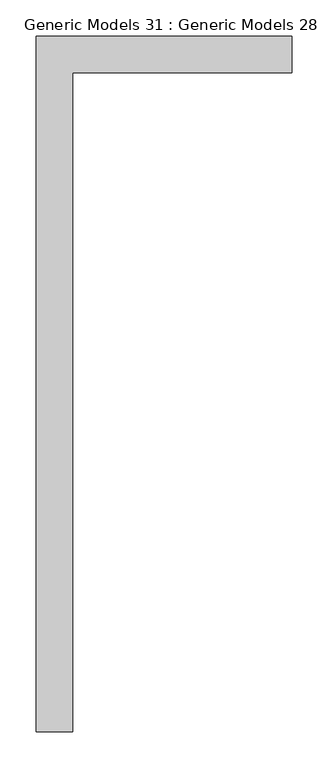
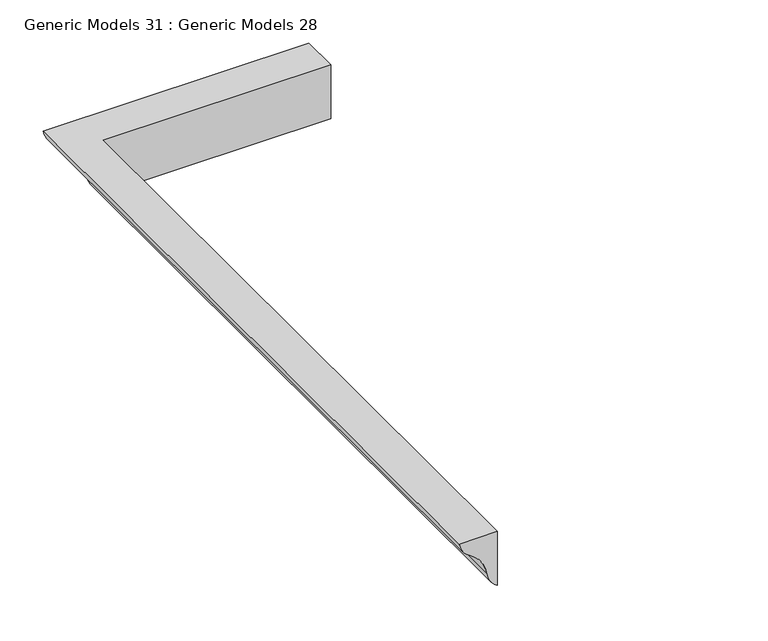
"""IFC4 building model written with IfcOpenShell, lengths in millimetres: proxy geometry, Generic Models 31 : Generic Models 28."""

from ifc_helpers import new_model, si_unit, frame, origin, place, context, project, spatial, polyline, circle_curve, ellipse_curve, source, transform, mapped, element, save
from ifc_brep_helpers import plane_surface, cylinder_surface, revolved_surface, advanced_brep


def generic_models_31_generic_models_28_6c951476(model_context):
    return source(origin(), model_context, "Body", "AdvancedBrep", [
        advanced_brep(
        [(3937.0, 8204.0947939, 5638.8), (3937.0, 8218.1841788, 5659.9340775), (3937.0, 8240.8054089, 5693.8659225), (3937.0, 8254.8947939, 5715.0), (3937.0, 8204.0947939, 5715.0), (3618.110615, 8218.1841788, 5659.9340775), (3632.2, 8204.0947939, 5638.8), (3632.2, 7289.6947939, 5638.8), (3618.110615, 7289.6947939, 5659.9340775), (3595.489385, 8240.8054089, 5693.8659225), (3595.489385, 7289.6947939, 5693.8659225), (3581.4, 8254.8947939, 5715.0), (3581.4, 7289.6947939, 5715.0), (3632.2, 8204.0947939, 5715.0), (3632.2, 7289.6947939, 5715.0)],
        [
            (0, 1, circle_curve(frame((3937.0, 8190.115854, 5663.3827937), z_axis=(1.0, 0.0, 0.0), x_axis=(0.0, -1.0, 0.0)), 28.2794007)),
            (1, 2, circle_curve(frame((3937.0, 8263.2493136, 5654.3969868), z_axis=(-1.0, 0.0, 0.0), x_axis=(0.0, -1.0, 0.0)), 45.4040279)),
            (2, 3, circle_curve(frame((3937.0, 8226.826469, 5718.4487162), z_axis=(1.0, 0.0, 0.0), x_axis=(0.0, -1.0, 0.0)), 28.2794007)),
            (3, 4),
            (4, 0),
            (5, 6, ellipse_curve(frame((3646.1789399, 8190.115854, 5663.3827937), z_axis=(-0.7071067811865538, -0.7071067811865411, 0.0), x_axis=(-0.707106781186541, 0.7071067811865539, 0.0)), 39.993112, 28.2794007)),
            (6, 7),
            (7, 8, circle_curve(frame((3646.1789399, 7289.6947939, 5663.3827937), z_axis=(0.0, 1.0, 0.0), x_axis=(1.0, 0.0, 0.0)), 28.2794007)),
            (8, 5),
            (9, 5, ellipse_curve(frame((3573.0454802, 8263.2493136, 5654.3969868), z_axis=(0.7071067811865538, 0.7071067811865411, 0.0), x_axis=(0.707106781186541, -0.7071067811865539, 0.0)), 64.210992, 45.4040279)),
            (8, 10, circle_curve(frame((3573.0454802, 7289.6947939, 5654.3969868), z_axis=(0.0, -1.0, 0.0), x_axis=(1.0, 0.0, 0.0)), 45.4040279)),
            (10, 9),
            (11, 9, ellipse_curve(frame((3609.4683249, 8226.826469, 5718.4487162), z_axis=(-0.7071067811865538, -0.7071067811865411, 0.0), x_axis=(-0.707106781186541, 0.7071067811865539, 0.0)), 39.993112, 28.2794007)),
            (10, 12, circle_curve(frame((3609.4683249, 7289.6947939, 5718.4487162), z_axis=(0.0, 1.0, 0.0), x_axis=(1.0, 0.0, 0.0)), 28.2794007)),
            (12, 11),
            (6, 13),
            (13, 14),
            (14, 7),
            (14, 12),
            (0, 6),
            (5, 1),
            (9, 2),
            (11, 3),
            (13, 4),
        ],
        [
            plane_surface(frame((3937.0, 8204.0947939, 5638.8), z_axis=(1.0, 0.0, 0.0), x_axis=(0.0, 0.0, 1.0))),
            cylinder_surface(frame((3646.1789399, 8204.0947939, 5663.3827937), z_axis=(0.0, 1.0, 0.0), x_axis=(1.0, 0.0, 0.0)), 28.2794007),
            revolved_surface(polyline([(3618.4495081, 7289.6947939, 5654.3969868), (3618.4495081, 8308.653341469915, 5654.3969868)]), (3573.0454802, 8204.0947939, 5654.3969868), (0.0, -1.0, 0.0)),
            cylinder_surface(frame((3609.4683249, 8204.0947939, 5718.4487162), z_axis=(0.0, 1.0, 0.0), x_axis=(1.0, 0.0, 0.0)), 28.2794007),
            plane_surface(frame((3632.2, 8204.0947939, 5715.0), z_axis=(1.0, 0.0, 0.0), x_axis=(0.0, -1.0, 0.0))),
            plane_surface(frame((3632.2, 7289.6947939, 5638.8), z_axis=(0.0, -1.0, 0.0), x_axis=(0.0, 0.0, 1.0))),
            cylinder_surface(frame((3937.0, 8190.115854, 5663.3827937), z_axis=(1.0, 0.0, 0.0), x_axis=(0.0, -1.0, 0.0)), 28.2794007),
            revolved_surface(polyline([(3527.641452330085, 8217.8452857, 5654.3969868), (3937.0, 8217.8452857, 5654.3969868)]), (3937.0, 8263.2493136, 5654.3969868), (-1.0, 0.0, 0.0)),
            cylinder_surface(frame((3937.0, 8226.826469, 5718.4487162), z_axis=(1.0, 0.0, 0.0), x_axis=(0.0, -1.0, 0.0)), 28.2794007),
            plane_surface(frame((3937.0, 8254.8947939, 5715.0), z_axis=(0.0, 0.0, 1.0), x_axis=(-1.0, 0.0, 0.0))),
            plane_surface(frame((3937.0, 8204.0947939, 5715.0), z_axis=(0.0, -1.0, 0.0), x_axis=(-1.0, 0.0, 0.0))),
        ],
        [
            (0, [[1, 2, 3, 4, 5]]),
            (1, [[6, 7, 8, 9]]),
            (2, [[10, -9, 11, 12]]),
            (3, [[13, -12, 14, 15]]),
            (4, [[16, 17, 18, -7]]),
            (5, [[-18, 19, -14, -11, -8]]),
            (6, [[-1, 20, -6, 21]]),
            (7, [[-2, -21, -10, 22]]),
            (8, [[-3, -22, -13, 23]]),
            (9, [[-4, -23, -15, -19, -17, 24]]),
            (10, [[-5, -24, -16, -20]]),
        ],
    ),
    ])


if __name__ == "__main__":
    model = new_model("IFC4")
    model_context = context("Model", 3, world=origin())
    ifc_project = project(units=[si_unit("LENGTHUNIT", "METRE", prefix="MILLI")], contexts=[model_context])
    site = spatial("IfcSite", under=ifc_project)
    building = spatial("IfcBuilding", under=site)
    placement = place(None, origin())
    generic_models_31_generic_models_28_shape = generic_models_31_generic_models_28_6c951476(model_context)
    element("IfcBuildingElementProxy", 1, Name="Generic Models 31 : Generic Models 28", ObjectType="Generic Models 31 : Generic Models 28", at=placement, inside=building, context=model_context, shape_type="MappedRepresentation", body=[
        mapped(generic_models_31_generic_models_28_shape, transform((0.0, 0.0, 0.0), x_axis=(1.0, 0.0, 0.0), y_axis=(0.0, 1.0, 0.0), z_axis=(0.0, 0.0, 1.0))),
    ])
    save(model, "model.ifc")
